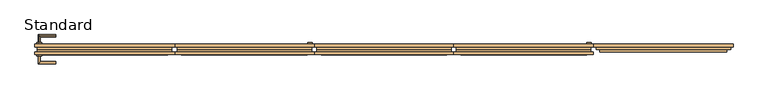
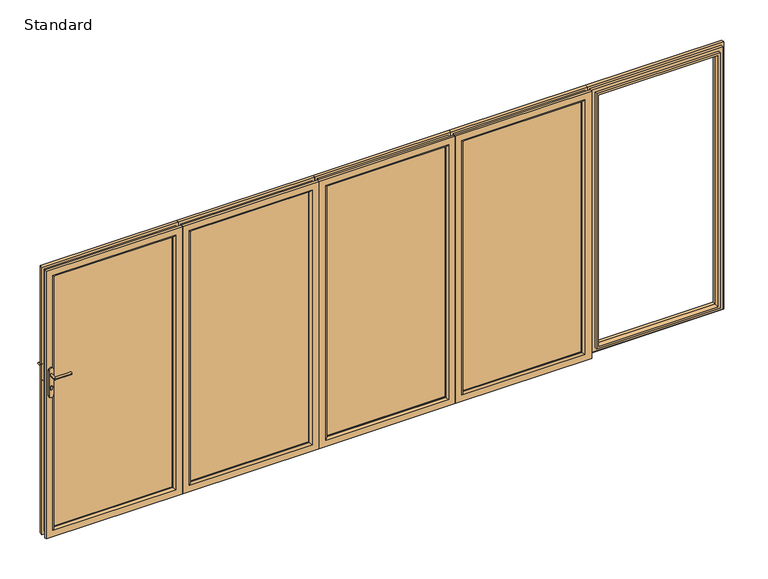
"""IFC4 building model written with IfcOpenShell, lengths in millimetres: door geometry, SMARTS_Visofold1000 : Standard."""

from ifc_helpers import new_model, si_unit, point, frame, frame_2d, origin, place, context, project, spatial, polyline, circle_curve, ellipse_curve, trimmed, segment, composite_curve, outline, extrude, faceted_brep, source, transform, mapped, element, save
from ifc_brep_helpers import plane_surface, cylinder_surface, advanced_brep


def standard_ed4c91d5(model_context):
    return source(origin(), model_context, "Body", "SolidModel", [
        advanced_brep(
        [(-2330.0, 75.0, 1232.5996413), (-2330.0, 75.0, 1215.5996413), (-2330.0, 130.0, 1215.5996413), (-2330.0, 130.0, 1232.5996413), (-2215.0, 130.0, 1232.5996413), (-2215.0, 130.0, 1215.5996413)],
        [
            (0, 1, circle_curve(frame((-2330.0, 75.0, 1224.0996413), z_axis=(0.0, -1.0, 0.0), x_axis=(0.0, 0.0, -1.0)), 8.5)),
            (1, 0, circle_curve(frame((-2330.0, 75.0, 1224.0996413), z_axis=(0.0, -1.0, 0.0), x_axis=(0.0, 0.0, -1.0)), 8.5)),
            (1, 2),
            (2, 3, ellipse_curve(frame((-2330.0, 130.0, 1224.0996413), z_axis=(-0.7071067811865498, -0.7071067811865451, 0.0), x_axis=(0.707106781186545, -0.70710678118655, 0.0)), 12.0208153, 8.5)),
            (3, 0),
            (3, 2, ellipse_curve(frame((-2330.0, 130.0, 1224.0996413), z_axis=(-0.7071067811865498, -0.7071067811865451, 0.0), x_axis=(0.707106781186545, -0.70710678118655, 0.0)), 12.0208153, 8.5)),
            (4, 5, circle_curve(frame((-2215.0, 130.0, 1224.0996413), z_axis=(1.0, 0.0, 0.0), x_axis=(0.0, 0.0, -1.0)), 8.5)),
            (5, 4, circle_curve(frame((-2215.0, 130.0, 1224.0996413), z_axis=(1.0, 0.0, 0.0), x_axis=(0.0, 0.0, -1.0)), 8.5)),
            (2, 5),
            (4, 3),
        ],
        [
            plane_surface(frame((-2330.0, 75.0, 1224.0996413), z_axis=(0.0, -1.0, 0.0), x_axis=(0.0, 0.0, -1.0))),
            cylinder_surface(frame((-2330.0, 75.0, 1224.0996413), z_axis=(0.0, -1.0, 0.0), x_axis=(0.0, 0.0, -1.0)), 8.5),
            plane_surface(frame((-2215.0, 130.0, 1224.0996413), z_axis=(1.0, 0.0, 0.0), x_axis=(0.0, 0.0, -1.0))),
            cylinder_surface(frame((-2330.0, 130.0, 1224.0996413), z_axis=(-1.0, 0.0, 0.0), x_axis=(0.0, 0.0, -1.0)), 8.5),
        ],
        [
            (0, [[1, 2]]),
            (1, [[-2, 3, 4, 5]]),
            (1, [[-1, -5, 6, -3]]),
            (2, [[7, 8]]),
            (3, [[-4, 9, -7, 10]]),
            (3, [[-6, -10, -8, -9]]),
        ],
    ),
        extrude(outline(composite_curve([segment(trimmed(circle_curve(frame_2d((1258.0996413, -2330.0)), 16.0), [point((1258.0996413, -2314.0))], [point((1258.0996413, -2346.0))], False, "CARTESIAN"), True, "CONTINUOUS"), segment(polyline([(1258.0996413, -2346.0), (1070.0996413, -2346.0)]), True, "CONTINUOUS"), segment(trimmed(circle_curve(frame_2d((1070.0996413, -2330.0)), 16.0), [point((1070.0996413, -2346.0))], [point((1070.0996413, -2314.0))], False, "CARTESIAN"), True, "CONTINUOUS"), segment(polyline([(1070.0996413, -2314.0), (1258.0996413, -2314.0)]), True, "CONTINUOUS")], self_intersect=False)), frame((0.0, 75.0, 0.0), z_axis=(0.0, 1.0, 0.0), x_axis=(0.0, 0.0, 1.0)), (0.0, 0.0, 1.0), 10.0),
        advanced_brep(
        [(-2321.5, 0.0, 1224.0996413), (-2338.5, 0.0, 1224.0996413), (-2321.5, -46.5, 1224.0996413), (-2338.5, -63.5, 1224.0996413), (-2215.0, -46.5, 1224.0996413), (-2215.0, -63.5, 1224.0996413)],
        [
            (0, 1, circle_curve(frame((-2330.0, 0.0, 1224.0996413), z_axis=(0.0, 1.0, 0.0), x_axis=(-1.0, 0.0, 0.0)), 8.5)),
            (1, 0, circle_curve(frame((-2330.0, 0.0, 1224.0996413), z_axis=(0.0, 1.0, 0.0), x_axis=(-1.0, 0.0, 0.0)), 8.5)),
            (0, 2),
            (2, 3, ellipse_curve(frame((-2330.0, -55.0, 1224.0996413), z_axis=(-0.7071067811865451, 0.7071067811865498, 0.0), x_axis=(0.7071067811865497, 0.7071067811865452, 0.0)), 12.0208153, 8.5)),
            (3, 1),
            (3, 2, ellipse_curve(frame((-2330.0, -55.0, 1224.0996413), z_axis=(-0.7071067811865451, 0.7071067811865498, 0.0), x_axis=(0.7071067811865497, 0.7071067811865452, 0.0)), 12.0208153, 8.5)),
            (4, 5, circle_curve(frame((-2215.0, -55.0, 1224.0996413), z_axis=(1.0, 0.0, 0.0), x_axis=(0.0, -1.0, 0.0)), 8.5)),
            (5, 4, circle_curve(frame((-2215.0, -55.0, 1224.0996413), z_axis=(1.0, 0.0, 0.0), x_axis=(0.0, -1.0, 0.0)), 8.5)),
            (2, 4),
            (5, 3),
        ],
        [
            plane_surface(frame((-2330.0, 0.0, 1224.0996413), z_axis=(0.0, 1.0, 0.0), x_axis=(0.0, 0.0, -1.0))),
            cylinder_surface(frame((-2330.0, 0.0, 1224.0996413), z_axis=(0.0, 1.0, 0.0), x_axis=(-1.0, 0.0, 0.0)), 8.5),
            plane_surface(frame((-2215.0, -55.0, 1224.0996413), z_axis=(1.0, 0.0, 0.0), x_axis=(0.0, 0.0, -1.0))),
            cylinder_surface(frame((-2330.0, -55.0, 1224.0996413), z_axis=(-1.0, 0.0, 0.0), x_axis=(0.0, -1.0, 0.0)), 8.5),
        ],
        [
            (0, [[1, 2]]),
            (1, [[-1, 3, 4, 5]]),
            (1, [[-2, -5, 6, -3]]),
            (2, [[7, 8]]),
            (3, [[-4, 9, -8, 10]]),
            (3, [[-6, -10, -7, -9]]),
        ],
    ),
        extrude(outline(composite_curve([segment(trimmed(circle_curve(frame_2d((1258.0996413, -2330.0)), 16.0), [point((1258.0996413, -2314.0))], [point((1258.0996413, -2346.0))], False, "CARTESIAN"), True, "CONTINUOUS"), segment(polyline([(1258.0996413, -2346.0), (1070.0996413, -2346.0)]), True, "CONTINUOUS"), segment(trimmed(circle_curve(frame_2d((1070.0996413, -2330.0)), 16.0), [point((1070.0996413, -2346.0))], [point((1070.0996413, -2314.0))], False, "CARTESIAN"), True, "CONTINUOUS"), segment(polyline([(1070.0996413, -2314.0), (1258.0996413, -2314.0)]), True, "CONTINUOUS")], self_intersect=False)), frame((0.0, -10.0, 0.0), z_axis=(0.0, 1.0, 0.0), x_axis=(0.0, 0.0, 1.0)), (0.0, 0.0, 1.0), 10.0),
        extrude(outline(composite_curve([segment(trimmed(circle_curve(frame_2d((1132.0996413, -2329.9428094)), 8.5), [point((1125.1769586, -2325.0106229))], [point((1125.27562, -2335.0106229))], False, "CARTESIAN"), True, "CONTINUOUS"), segment(polyline([(1125.27562, -2335.0106229), (1117.5996413, -2335.0106229)]), True, "CONTINUOUS"), segment(trimmed(circle_curve(frame_2d((1117.5996413, -2330.0106229)), 5.0), [point((1117.5996413, -2335.0106229))], [point((1117.5996413, -2325.0106229))], False, "CARTESIAN"), True, "CONTINUOUS"), segment(polyline([(1117.5996413, -2325.0106229), (1125.1769586, -2325.0106229)]), True, "CONTINUOUS")], self_intersect=False)), frame((0.0, 85.0, 0.0), z_axis=(0.0, 1.0, 0.0), x_axis=(0.0, 0.0, 1.0)), (0.0, 0.0, 1.0), 2.0),
        extrude(outline(composite_curve([segment(trimmed(circle_curve(frame_2d((1132.0996413, -2329.9428094)), 8.5), [point((1125.1769586, -2325.0106229))], [point((1125.27562, -2335.0106229))], False, "CARTESIAN"), True, "CONTINUOUS"), segment(polyline([(1125.27562, -2335.0106229), (1117.5996413, -2335.0106229)]), True, "CONTINUOUS"), segment(trimmed(circle_curve(frame_2d((1117.5996413, -2330.0106229)), 5.0), [point((1117.5996413, -2335.0106229))], [point((1117.5996413, -2325.0106229))], False, "CARTESIAN"), True, "CONTINUOUS"), segment(polyline([(1117.5996413, -2325.0106229), (1125.1769586, -2325.0106229)]), True, "CONTINUOUS")], self_intersect=False)), frame((0.0, -12.0, 0.0), z_axis=(0.0, 1.0, 0.0), x_axis=(0.0, 0.0, 1.0)), (0.0, 0.0, 1.0), 2.0),
        extrude(outline(polyline([(45.0, -2315.0), (45.0, -1441.0), (1955.0, -1441.0), (1955.0, -2315.0), (45.0, -2315.0)]), holes=[polyline([(1939.5, -2299.5), (1939.5, -1456.5), (60.5, -1456.5), (60.5, -2299.5), (1939.5, -2299.5)])]), frame((0.0, 17.4, 0.0), z_axis=(0.0, 1.0, 0.0), x_axis=(0.0, 0.0, 1.0)), (0.0, 0.0, 1.0), 35.0),
        faceted_brep([(-2360.0, 74.4, 0.0), (-2360.0, 52.4, 0.0), (-2360.0, 52.4, 2000.0), (-2360.0, 74.4, 2000.0), (-2299.5, 52.4, 60.5), (-2299.5, 74.4, 60.5), (-2299.5, 74.4, 1939.5), (-2299.5, 52.4, 1939.5), (-1396.0, 52.4, 2000.0), (-1396.0, 74.4, 2000.0), (-1456.5, 74.4, 1939.5), (-1456.5, 52.4, 1939.5), (-1396.0, 52.4, 0.0), (-1396.0, 74.4, 0.0), (-1456.5, 74.4, 60.5), (-1456.5, 52.4, 60.5), (-2342.1308519, 34.8, 17.8691481), (-1413.8691481, 34.8, 17.8691481), (-1413.8691481, 34.8, 1982.1308519), (-2342.1308519, 34.8, 1982.1308519), (-2315.0, 34.8, 1955.0), (-1441.0, 34.8, 1955.0), (-1441.0, 34.8, 45.0), (-2315.0, 34.8, 45.0), (-2342.1308519, 52.4, 17.8691481), (-2342.1308519, 52.4, 1982.1308519), (-2315.0, 52.4, 45.0), (-2315.0, 52.4, 1955.0), (-1413.8691481, 52.4, 1982.1308519), (-1441.0, 52.4, 1955.0), (-1413.8691481, 52.4, 17.8691481), (-1441.0, 52.4, 45.0)], [[[0, 1, 2, 3]], [[4, 5, 6, 7]], [[3, 2, 8, 9]], [[7, 6, 10, 11]], [[9, 8, 12, 13]], [[11, 10, 14, 15]], [[13, 12, 1, 0]], [[3, 9, 13, 0], [5, 14, 10, 6]], [[15, 14, 5, 4]], [[16, 17, 18, 19], [20, 21, 22, 23]], [[24, 16, 19, 25]], [[23, 26, 27, 20]], [[25, 19, 18, 28]], [[20, 27, 29, 21]], [[28, 18, 17, 30]], [[21, 29, 31, 22]], [[30, 17, 16, 24]], [[1, 12, 8, 2], [25, 28, 30, 24]], [[26, 31, 29, 27], [7, 11, 15, 4]], [[22, 31, 26, 23]]]),
        advanced_brep(
        [(-2299.5, 13.3, 60.5), (-2299.5, 17.4, 60.5), (-2299.5, 17.4, 1939.5), (-2299.5, 13.3, 1939.5), (-2360.0, 17.4, 0.0), (-2360.0, 0.0, 0.0), (-2360.0, 0.0, 2000.0), (-2360.0, 17.4, 2000.0), (-1456.5, 17.4, 1939.5), (-1456.5, 13.3, 1939.5), (-1396.0, 0.0, 2000.0), (-1396.0, 17.4, 2000.0), (-1456.5, 17.4, 60.5), (-1456.5, 13.3, 60.5), (-1396.0, 0.0, 0.0), (-1396.0, 17.4, 0.0), (-2312.8, 0.0, 1952.8), (-1443.2, 0.0, 1952.8), (-1443.2, 0.0, 47.2), (-2312.8, 0.0, 47.2), (-2342.1308519, 34.8, 17.8691481), (-2342.1308519, 17.4, 17.8691481), (-2342.1308519, 17.4, 1982.1308519), (-2342.1308519, 34.8, 1982.1308519), (-1413.8691481, 17.4, 1982.1308519), (-1413.8691481, 34.8, 1982.1308519), (-1413.8691481, 17.4, 17.8691481), (-1413.8691481, 34.8, 17.8691481), (-2315.0, 17.4, 45.0), (-2315.0, 34.8, 45.0), (-2315.0, 34.8, 1955.0), (-2315.0, 17.4, 1955.0), (-1441.0, 34.8, 1955.0), (-1441.0, 17.4, 1955.0), (-1441.0, 34.8, 45.0), (-1441.0, 17.4, 45.0)],
        [
            (0, 1),
            (1, 2),
            (2, 3),
            (3, 0),
            (4, 5),
            (5, 6),
            (6, 7),
            (7, 4),
            (2, 8),
            (8, 9),
            (9, 3),
            (6, 10),
            (10, 11),
            (11, 7),
            (8, 12),
            (12, 13),
            (13, 9),
            (10, 14),
            (14, 15),
            (15, 11),
            (12, 1),
            (0, 13),
            (5, 14),
            (16, 17),
            (17, 18),
            (18, 19),
            (19, 16),
            (4, 15),
            (19, 0, ellipse_curve(frame((-2312.8, 13.3, 47.2), z_axis=(-0.7071067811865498, 0.0, 0.7071067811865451), x_axis=(-0.7071067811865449, 0.0, -0.70710678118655)), 18.8090404, 13.3)),
            (3, 16, ellipse_curve(frame((-2312.8, 13.3, 1952.8), z_axis=(-0.7071067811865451, 0.0, -0.70710678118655), x_axis=(0.7071067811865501, 0.0, -0.7071067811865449)), 18.8090404, 13.3)),
            (9, 17, ellipse_curve(frame((-1443.2, 13.3, 1952.8), z_axis=(-0.7071067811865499, 0.0, 0.707106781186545), x_axis=(-0.7071067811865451, 0.0, -0.7071067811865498)), 18.8090404, 13.3)),
            (13, 18, ellipse_curve(frame((-1443.2, 13.3, 47.2), z_axis=(0.7071067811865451, 0.0, 0.7071067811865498), x_axis=(-0.7071067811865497, 0.0, 0.7071067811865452)), 18.8090404, 13.3)),
            (20, 21),
            (21, 22),
            (22, 23),
            (23, 20),
            (22, 24),
            (24, 25),
            (25, 23),
            (24, 26),
            (26, 27),
            (27, 25),
            (21, 26),
            (20, 27),
            (28, 29),
            (29, 30),
            (30, 31),
            (31, 28),
            (30, 32),
            (32, 33),
            (33, 31),
            (32, 34),
            (34, 35),
            (35, 33),
            (34, 29),
            (28, 35),
        ],
        [
            plane_surface(frame((-2299.5, 17.4, 60.5), z_axis=(1.0, 0.0, 0.0), x_axis=(0.0, 0.0, 1.0))),
            plane_surface(frame((-2360.0, 0.0, 0.0), z_axis=(-1.0, 0.0, 0.0), x_axis=(0.0, 0.0, 1.0))),
            plane_surface(frame((-2299.5, 17.4, 1939.5), z_axis=(0.0, 0.0, -1.0), x_axis=(1.0, 0.0, 0.0))),
            plane_surface(frame((-2360.0, 0.0, 2000.0), z_axis=(0.0, 0.0, 1.0), x_axis=(1.0, 0.0, 0.0))),
            plane_surface(frame((-1456.5, 17.4, 1939.5), z_axis=(-1.0, 0.0, 0.0), x_axis=(0.0, 0.0, -1.0))),
            plane_surface(frame((-1396.0, 0.0, 2000.0), z_axis=(1.0, 0.0, 0.0), x_axis=(0.0, 0.0, -1.0))),
            plane_surface(frame((-1456.5, 17.4, 60.5), z_axis=(0.0, 0.0, 1.0), x_axis=(-1.0, 0.0, 0.0))),
            plane_surface(frame((-1443.2, 0.0, 47.2), z_axis=(0.0, -1.0, 0.0), x_axis=(-1.0, 0.0, 0.0))),
            plane_surface(frame((-1396.0, 0.0, 0.0), z_axis=(0.0, 0.0, -1.0), x_axis=(-1.0, 0.0, 0.0))),
            cylinder_surface(frame((-2312.8, 13.3, 0.0), z_axis=(0.0, 0.0, -1.0), x_axis=(0.0, 1.0, 0.0)), 13.3),
            cylinder_surface(frame((-2360.0, 13.3, 1952.8), z_axis=(-1.0, 0.0, 0.0), x_axis=(0.0, 1.0, 0.0)), 13.3),
            cylinder_surface(frame((-1443.2, 13.3, 2000.0), z_axis=(0.0, 0.0, 1.0), x_axis=(0.0, 1.0, 0.0)), 13.3),
            cylinder_surface(frame((-1396.0, 13.3, 47.2), z_axis=(1.0, 0.0, 0.0), x_axis=(0.0, 1.0, 0.0)), 13.3),
            plane_surface(frame((-2342.1308519, 17.4, 17.8691481), z_axis=(-1.0, 0.0, 0.0), x_axis=(0.0, 0.0, 1.0))),
            plane_surface(frame((-2342.1308519, 17.4, 1982.1308519), z_axis=(0.0, 0.0, 1.0), x_axis=(1.0, 0.0, 0.0))),
            plane_surface(frame((-1413.8691481, 17.4, 1982.1308519), z_axis=(1.0, 0.0, 0.0), x_axis=(0.0, 0.0, -1.0))),
            plane_surface(frame((-1396.0, 17.4, 0.0), z_axis=(0.0, 1.0, 0.0), x_axis=(-1.0, 0.0, 0.0))),
            plane_surface(frame((-1413.8691481, 17.4, 17.8691481), z_axis=(0.0, 0.0, -1.0), x_axis=(-1.0, 0.0, 0.0))),
            plane_surface(frame((-2315.0, 34.8, 45.0), z_axis=(1.0, 0.0, 0.0), x_axis=(0.0, 0.0, 1.0))),
            plane_surface(frame((-2315.0, 34.8, 1955.0), z_axis=(0.0, 0.0, -1.0), x_axis=(1.0, 0.0, 0.0))),
            plane_surface(frame((-1441.0, 34.8, 1955.0), z_axis=(-1.0, 0.0, 0.0), x_axis=(0.0, 0.0, -1.0))),
            plane_surface(frame((-1441.0, 34.8, 45.0), z_axis=(0.0, 0.0, 1.0), x_axis=(-1.0, 0.0, 0.0))),
            plane_surface(frame((-1441.0, 17.4, 45.0), z_axis=(0.0, 1.0, 0.0), x_axis=(-1.0, 0.0, 0.0))),
            plane_surface(frame((-1413.8691481, 34.8, 17.8691481), z_axis=(0.0, 1.0, 0.0), x_axis=(-1.0, 0.0, 0.0))),
        ],
        [
            (0, [[1, 2, 3, 4]]),
            (1, [[5, 6, 7, 8]]),
            (2, [[-3, 9, 10, 11]]),
            (3, [[-7, 12, 13, 14]]),
            (4, [[-10, 15, 16, 17]]),
            (5, [[-13, 18, 19, 20]]),
            (6, [[-16, 21, -1, 22]]),
            (7, [[23, -18, -12, -6], [24, 25, 26, 27]]),
            (8, [[-19, -23, -5, 28]]),
            (9, [[29, -4, 30, -27]]),
            (10, [[-30, -11, 31, -24]]),
            (11, [[-31, -17, 32, -25]]),
            (12, [[-32, -22, -29, -26]]),
            (13, [[33, 34, 35, 36]]),
            (14, [[-35, 37, 38, 39]]),
            (15, [[-38, 40, 41, 42]]),
            (16, [[-14, -20, -28, -8], [43, -40, -37, -34]]),
            (17, [[-41, -43, -33, 44]]),
            (18, [[45, 46, 47, 48]]),
            (19, [[-47, 49, 50, 51]]),
            (20, [[-50, 52, 53, 54]]),
            (21, [[-53, 55, -45, 56]]),
            (22, [[-51, -54, -56, -48], [-21, -15, -9, -2]]),
            (23, [[-39, -42, -44, -36], [-55, -52, -49, -46]]),
        ],
    ),
        extrude(outline(polyline([(-2299.5, 50.1484783), (-1456.5, 50.1484783), (-1456.5, 21.4), (-2299.5, 21.4), (-2299.5, 50.1484783)])), frame((0.0, 0.0, 60.5), z_axis=(0.0, 0.0, 1.0), x_axis=(1.0, 0.0, 0.0)), (0.0, 0.0, 1.0), 1879.0),
        extrude(outline(composite_curve([segment(polyline([(1228.0996413, -478.0), (1040.0996413, -478.0)]), True, "CONTINUOUS"), segment(trimmed(circle_curve(frame_2d((1040.0996413, -462.0)), 16.0), [point((1040.0996413, -478.0))], [point((1040.0996413, -446.0))], False, "CARTESIAN"), True, "CONTINUOUS"), segment(polyline([(1040.0996413, -446.0), (1228.0996413, -446.0)]), True, "CONTINUOUS"), segment(trimmed(circle_curve(frame_2d((1228.0996413, -462.0)), 16.0), [point((1228.0996413, -446.0))], [point((1228.0996413, -478.0))], False, "CARTESIAN"), True, "CONTINUOUS")], self_intersect=False)), frame((0.0, 75.0, 0.0), z_axis=(0.0, 1.0, 0.0), x_axis=(0.0, 0.0, 1.0)), (0.0, 0.0, 1.0), 10.0),
        extrude(outline(polyline([(45.0, -477.0), (1955.0, -477.0), (1955.0, -1351.0), (45.0, -1351.0), (45.0, -477.0)]), holes=[polyline([(1939.5, -492.5), (60.5, -492.5), (60.5, -1335.5), (1939.5, -1335.5), (1939.5, -492.5)])]), frame((0.0, 17.4, 0.0), z_axis=(0.0, 1.0, 0.0), x_axis=(0.0, 0.0, 1.0)), (0.0, 0.0, 1.0), 35.0),
        faceted_brep([(-432.0, 74.4, 0.0), (-432.0, 74.4, 2000.0), (-432.0, 52.4, 2000.0), (-432.0, 52.4, 0.0), (-492.5, 52.4, 60.5), (-492.5, 52.4, 1939.5), (-492.5, 74.4, 1939.5), (-492.5, 74.4, 60.5), (-1396.0, 74.4, 2000.0), (-1396.0, 52.4, 2000.0), (-1335.5, 52.4, 1939.5), (-1335.5, 74.4, 1939.5), (-1396.0, 74.4, 0.0), (-1396.0, 52.4, 0.0), (-1335.5, 52.4, 60.5), (-1335.5, 74.4, 60.5), (-449.8691481, 34.8, 17.8691481), (-449.8691481, 34.8, 1982.1308519), (-1378.1308519, 34.8, 1982.1308519), (-1378.1308519, 34.8, 17.8691481), (-477.0, 34.8, 1955.0), (-477.0, 34.8, 45.0), (-1351.0, 34.8, 45.0), (-1351.0, 34.8, 1955.0), (-449.8691481, 52.4, 17.8691481), (-449.8691481, 52.4, 1982.1308519), (-477.0, 52.4, 1955.0), (-477.0, 52.4, 45.0), (-1378.1308519, 52.4, 1982.1308519), (-1351.0, 52.4, 1955.0), (-1378.1308519, 52.4, 17.8691481), (-1351.0, 52.4, 45.0)], [[[0, 1, 2, 3]], [[4, 5, 6, 7]], [[1, 8, 9, 2]], [[5, 10, 11, 6]], [[8, 12, 13, 9]], [[10, 14, 15, 11]], [[12, 0, 3, 13]], [[1, 0, 12, 8], [7, 6, 11, 15]], [[14, 4, 7, 15]], [[16, 17, 18, 19], [20, 21, 22, 23]], [[24, 25, 17, 16]], [[21, 20, 26, 27]], [[25, 28, 18, 17]], [[20, 23, 29, 26]], [[28, 30, 19, 18]], [[23, 22, 31, 29]], [[30, 24, 16, 19]], [[3, 2, 9, 13], [25, 24, 30, 28]], [[27, 26, 29, 31], [5, 4, 14, 10]], [[22, 21, 27, 31]]]),
        advanced_brep(
        [(-492.5, 13.3, 60.5), (-492.5, 13.3, 1939.5), (-492.5, 17.4, 1939.5), (-492.5, 17.4, 60.5), (-432.0, 17.4, 0.0), (-432.0, 17.4, 2000.0), (-432.0, 0.0, 2000.0), (-432.0, 0.0, 0.0), (-1335.5, 13.3, 1939.5), (-1335.5, 17.4, 1939.5), (-1396.0, 17.4, 2000.0), (-1396.0, 0.0, 2000.0), (-1335.5, 13.3, 60.5), (-1335.5, 17.4, 60.5), (-1396.0, 17.4, 0.0), (-1396.0, 0.0, 0.0), (-479.2, 0.0, 1952.8), (-479.2, 0.0, 47.2), (-1348.8, 0.0, 47.2), (-1348.8, 0.0, 1952.8), (-449.8691481, 34.8, 17.8691481), (-449.8691481, 34.8, 1982.1308519), (-449.8691481, 17.4, 1982.1308519), (-449.8691481, 17.4, 17.8691481), (-1378.1308519, 34.8, 1982.1308519), (-1378.1308519, 17.4, 1982.1308519), (-1378.1308519, 34.8, 17.8691481), (-1378.1308519, 17.4, 17.8691481), (-477.0, 17.4, 45.0), (-477.0, 17.4, 1955.0), (-477.0, 34.8, 1955.0), (-477.0, 34.8, 45.0), (-1351.0, 17.4, 1955.0), (-1351.0, 34.8, 1955.0), (-1351.0, 17.4, 45.0), (-1351.0, 34.8, 45.0)],
        [
            (0, 1),
            (1, 2),
            (2, 3),
            (3, 0),
            (4, 5),
            (5, 6),
            (6, 7),
            (7, 4),
            (1, 8),
            (8, 9),
            (9, 2),
            (5, 10),
            (10, 11),
            (11, 6),
            (8, 12),
            (12, 13),
            (13, 9),
            (10, 14),
            (14, 15),
            (15, 11),
            (12, 0),
            (3, 13),
            (15, 7),
            (16, 17),
            (17, 18),
            (18, 19),
            (19, 16),
            (14, 4),
            (16, 1, ellipse_curve(frame((-479.2, 13.3, 1952.8), z_axis=(0.7071067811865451, 0.0, -0.70710678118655), x_axis=(-0.7071067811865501, 0.0, -0.7071067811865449)), 18.8090404, 13.3)),
            (0, 17, ellipse_curve(frame((-479.2, 13.3, 47.2), z_axis=(0.7071067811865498, 0.0, 0.7071067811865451), x_axis=(0.7071067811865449, 0.0, -0.70710678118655)), 18.8090404, 13.3)),
            (19, 8, ellipse_curve(frame((-1348.8, 13.3, 1952.8), z_axis=(0.7071067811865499, 0.0, 0.707106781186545), x_axis=(0.7071067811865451, 0.0, -0.7071067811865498)), 18.8090404, 13.3)),
            (18, 12, ellipse_curve(frame((-1348.8, 13.3, 47.2), z_axis=(-0.7071067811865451, 0.0, 0.7071067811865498), x_axis=(0.7071067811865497, 0.0, 0.7071067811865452)), 18.8090404, 13.3)),
            (20, 21),
            (21, 22),
            (22, 23),
            (23, 20),
            (21, 24),
            (24, 25),
            (25, 22),
            (24, 26),
            (26, 27),
            (27, 25),
            (27, 23),
            (26, 20),
            (28, 29),
            (29, 30),
            (30, 31),
            (31, 28),
            (29, 32),
            (32, 33),
            (33, 30),
            (32, 34),
            (34, 35),
            (35, 33),
            (34, 28),
            (31, 35),
        ],
        [
            plane_surface(frame((-492.5, 17.4, 60.5), z_axis=(-1.0, 0.0, 0.0), x_axis=(0.0, 0.0, 1.0))),
            plane_surface(frame((-432.0, 0.0, 0.0), z_axis=(1.0, 0.0, 0.0), x_axis=(0.0, 0.0, 1.0))),
            plane_surface(frame((-492.5, 17.4, 1939.5), z_axis=(0.0, 0.0, -1.0), x_axis=(-1.0, 0.0, 0.0))),
            plane_surface(frame((-432.0, 0.0, 2000.0), z_axis=(0.0, 0.0, 1.0), x_axis=(-1.0, 0.0, 0.0))),
            plane_surface(frame((-1335.5, 17.4, 1939.5), z_axis=(1.0, 0.0, 0.0), x_axis=(0.0, 0.0, -1.0))),
            plane_surface(frame((-1396.0, 0.0, 2000.0), z_axis=(-1.0, 0.0, 0.0), x_axis=(0.0, 0.0, -1.0))),
            plane_surface(frame((-1335.5, 17.4, 60.5), z_axis=(0.0, 0.0, 1.0), x_axis=(1.0, 0.0, 0.0))),
            plane_surface(frame((-1348.8, 0.0, 47.2), z_axis=(0.0, -1.0, 0.0), x_axis=(1.0, 0.0, 0.0))),
            plane_surface(frame((-1396.0, 0.0, 0.0), z_axis=(0.0, 0.0, -1.0), x_axis=(1.0, 0.0, 0.0))),
            cylinder_surface(frame((-479.2, 13.3, 0.0), z_axis=(0.0, 0.0, -1.0), x_axis=(0.0, 1.0, 0.0)), 13.3),
            cylinder_surface(frame((-432.0, 13.3, 1952.8), z_axis=(1.0, 0.0, 0.0), x_axis=(0.0, 1.0, 0.0)), 13.3),
            cylinder_surface(frame((-1348.8, 13.3, 2000.0), z_axis=(0.0, 0.0, 1.0), x_axis=(0.0, 1.0, 0.0)), 13.3),
            cylinder_surface(frame((-1396.0, 13.3, 47.2), z_axis=(-1.0, 0.0, 0.0), x_axis=(0.0, 1.0, 0.0)), 13.3),
            plane_surface(frame((-449.8691481, 17.4, 17.8691481), z_axis=(1.0, 0.0, 0.0), x_axis=(0.0, 0.0, 1.0))),
            plane_surface(frame((-449.8691481, 17.4, 1982.1308519), z_axis=(0.0, 0.0, 1.0), x_axis=(-1.0, 0.0, 0.0))),
            plane_surface(frame((-1378.1308519, 17.4, 1982.1308519), z_axis=(-1.0, 0.0, 0.0), x_axis=(0.0, 0.0, -1.0))),
            plane_surface(frame((-1396.0, 17.4, 0.0), z_axis=(0.0, 1.0, 0.0), x_axis=(1.0, 0.0, 0.0))),
            plane_surface(frame((-1378.1308519, 17.4, 17.8691481), z_axis=(0.0, 0.0, -1.0), x_axis=(1.0, 0.0, 0.0))),
            plane_surface(frame((-477.0, 34.8, 45.0), z_axis=(-1.0, 0.0, 0.0), x_axis=(0.0, 0.0, 1.0))),
            plane_surface(frame((-477.0, 34.8, 1955.0), z_axis=(0.0, 0.0, -1.0), x_axis=(-1.0, 0.0, 0.0))),
            plane_surface(frame((-1351.0, 34.8, 1955.0), z_axis=(1.0, 0.0, 0.0), x_axis=(0.0, 0.0, -1.0))),
            plane_surface(frame((-1351.0, 34.8, 45.0), z_axis=(0.0, 0.0, 1.0), x_axis=(1.0, 0.0, 0.0))),
            plane_surface(frame((-1351.0, 17.4, 45.0), z_axis=(0.0, 1.0, 0.0), x_axis=(1.0, 0.0, 0.0))),
            plane_surface(frame((-1378.1308519, 34.8, 17.8691481), z_axis=(0.0, 1.0, 0.0), x_axis=(1.0, 0.0, 0.0))),
        ],
        [
            (0, [[1, 2, 3, 4]]),
            (1, [[5, 6, 7, 8]]),
            (2, [[9, 10, 11, -2]]),
            (3, [[12, 13, 14, -6]]),
            (4, [[15, 16, 17, -10]]),
            (5, [[18, 19, 20, -13]]),
            (6, [[21, -4, 22, -16]]),
            (7, [[-7, -14, -20, 23], [24, 25, 26, 27]]),
            (8, [[28, -8, -23, -19]]),
            (9, [[-24, 29, -1, 30]]),
            (10, [[-27, 31, -9, -29]]),
            (11, [[-26, 32, -15, -31]]),
            (12, [[-25, -30, -21, -32]]),
            (13, [[33, 34, 35, 36]]),
            (14, [[37, 38, 39, -34]]),
            (15, [[40, 41, 42, -38]]),
            (16, [[-5, -28, -18, -12], [-35, -39, -42, 43]]),
            (17, [[44, -36, -43, -41]]),
            (18, [[45, 46, 47, 48]]),
            (19, [[49, 50, 51, -46]]),
            (20, [[52, 53, 54, -50]]),
            (21, [[55, -48, 56, -53]]),
            (22, [[-45, -55, -52, -49], [-3, -11, -17, -22]]),
            (23, [[-33, -44, -40, -37], [-47, -51, -54, -56]]),
        ],
    ),
        extrude(outline(polyline([(-492.5, 50.1484783), (-492.5, 21.4), (-1335.5, 21.4), (-1335.5, 50.1484783), (-492.5, 50.1484783)])), frame((0.0, 0.0, 60.5), z_axis=(0.0, 0.0, 1.0), x_axis=(1.0, 0.0, 0.0)), (0.0, 0.0, 1.0), 1879.0),
        extrude(outline(composite_curve([segment(polyline([(1228.0996413, 1450.0), (1040.0996413, 1450.0)]), True, "CONTINUOUS"), segment(trimmed(circle_curve(frame_2d((1040.0996413, 1466.0)), 16.0), [point((1040.0996413, 1450.0))], [point((1040.0996413, 1482.0))], False, "CARTESIAN"), True, "CONTINUOUS"), segment(polyline([(1040.0996413, 1482.0), (1228.0996413, 1482.0)]), True, "CONTINUOUS"), segment(trimmed(circle_curve(frame_2d((1228.0996413, 1466.0)), 16.0), [point((1228.0996413, 1482.0))], [point((1228.0996413, 1450.0))], False, "CARTESIAN"), True, "CONTINUOUS")], self_intersect=False)), frame((0.0, 75.0, 0.0), z_axis=(0.0, 1.0, 0.0), x_axis=(0.0, 0.0, 1.0)), (0.0, 0.0, 1.0), 10.0),
        extrude(outline(polyline([(45.0, 1451.0), (1955.0, 1451.0), (1955.0, 577.0), (45.0, 577.0), (45.0, 1451.0)]), holes=[polyline([(1939.5, 1435.5), (60.5, 1435.5), (60.5, 592.5), (1939.5, 592.5), (1939.5, 1435.5)])]), frame((0.0, 17.4, 0.0), z_axis=(0.0, 1.0, 0.0), x_axis=(0.0, 0.0, 1.0)), (0.0, 0.0, 1.0), 35.0),
        faceted_brep([(1496.0, 74.4, 0.0), (1496.0, 74.4, 2000.0), (1496.0, 52.4, 2000.0), (1496.0, 52.4, 0.0), (1435.5, 52.4, 60.5), (1435.5, 52.4, 1939.5), (1435.5, 74.4, 1939.5), (1435.5, 74.4, 60.5), (532.0, 74.4, 2000.0), (532.0, 52.4, 2000.0), (592.5, 52.4, 1939.5), (592.5, 74.4, 1939.5), (532.0, 74.4, 0.0), (532.0, 52.4, 0.0), (592.5, 52.4, 60.5), (592.5, 74.4, 60.5), (1478.1308519, 34.8, 17.8691481), (1478.1308519, 34.8, 1982.1308519), (549.8691481, 34.8, 1982.1308519), (549.8691481, 34.8, 17.8691481), (1451.0, 34.8, 1955.0), (1451.0, 34.8, 45.0), (577.0, 34.8, 45.0), (577.0, 34.8, 1955.0), (1478.1308519, 52.4, 17.8691481), (1478.1308519, 52.4, 1982.1308519), (1451.0, 52.4, 1955.0), (1451.0, 52.4, 45.0), (549.8691481, 52.4, 1982.1308519), (577.0, 52.4, 1955.0), (549.8691481, 52.4, 17.8691481), (577.0, 52.4, 45.0)], [[[0, 1, 2, 3]], [[4, 5, 6, 7]], [[1, 8, 9, 2]], [[5, 10, 11, 6]], [[8, 12, 13, 9]], [[10, 14, 15, 11]], [[12, 0, 3, 13]], [[1, 0, 12, 8], [7, 6, 11, 15]], [[14, 4, 7, 15]], [[16, 17, 18, 19], [20, 21, 22, 23]], [[24, 25, 17, 16]], [[21, 20, 26, 27]], [[25, 28, 18, 17]], [[20, 23, 29, 26]], [[28, 30, 19, 18]], [[23, 22, 31, 29]], [[30, 24, 16, 19]], [[3, 2, 9, 13], [25, 24, 30, 28]], [[27, 26, 29, 31], [5, 4, 14, 10]], [[22, 21, 27, 31]]]),
        advanced_brep(
        [(1435.5, 13.3, 60.5), (1435.5, 13.3, 1939.5), (1435.5, 17.4, 1939.5), (1435.5, 17.4, 60.5), (1496.0, 17.4, 0.0), (1496.0, 17.4, 2000.0), (1496.0, 0.0, 2000.0), (1496.0, 0.0, 0.0), (592.5, 13.3, 1939.5), (592.5, 17.4, 1939.5), (532.0, 17.4, 2000.0), (532.0, 0.0, 2000.0), (592.5, 13.3, 60.5), (592.5, 17.4, 60.5), (532.0, 17.4, 0.0), (532.0, 0.0, 0.0), (1448.8, 0.0, 1952.8), (1448.8, 0.0, 47.2), (579.2, 0.0, 47.2), (579.2, 0.0, 1952.8), (1478.1308519, 34.8, 17.8691481), (1478.1308519, 34.8, 1982.1308519), (1478.1308519, 17.4, 1982.1308519), (1478.1308519, 17.4, 17.8691481), (549.8691481, 34.8, 1982.1308519), (549.8691481, 17.4, 1982.1308519), (549.8691481, 34.8, 17.8691481), (549.8691481, 17.4, 17.8691481), (1451.0, 17.4, 45.0), (1451.0, 17.4, 1955.0), (1451.0, 34.8, 1955.0), (1451.0, 34.8, 45.0), (577.0, 17.4, 1955.0), (577.0, 34.8, 1955.0), (577.0, 17.4, 45.0), (577.0, 34.8, 45.0)],
        [
            (0, 1),
            (1, 2),
            (2, 3),
            (3, 0),
            (4, 5),
            (5, 6),
            (6, 7),
            (7, 4),
            (1, 8),
            (8, 9),
            (9, 2),
            (5, 10),
            (10, 11),
            (11, 6),
            (8, 12),
            (12, 13),
            (13, 9),
            (10, 14),
            (14, 15),
            (15, 11),
            (12, 0),
            (3, 13),
            (15, 7),
            (16, 17),
            (17, 18),
            (18, 19),
            (19, 16),
            (14, 4),
            (16, 1, ellipse_curve(frame((1448.8, 13.3, 1952.8), z_axis=(0.7071067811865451, 0.0, -0.70710678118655), x_axis=(-0.7071067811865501, 0.0, -0.7071067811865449)), 18.8090404, 13.3)),
            (0, 17, ellipse_curve(frame((1448.8, 13.3, 47.2), z_axis=(0.7071067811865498, 0.0, 0.7071067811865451), x_axis=(0.7071067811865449, 0.0, -0.70710678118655)), 18.8090404, 13.3)),
            (19, 8, ellipse_curve(frame((579.2, 13.3, 1952.8), z_axis=(0.7071067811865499, 0.0, 0.707106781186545), x_axis=(0.7071067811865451, 0.0, -0.7071067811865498)), 18.8090404, 13.3)),
            (18, 12, ellipse_curve(frame((579.2, 13.3, 47.2), z_axis=(-0.7071067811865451, 0.0, 0.7071067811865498), x_axis=(0.7071067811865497, 0.0, 0.7071067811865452)), 18.8090404, 13.3)),
            (20, 21),
            (21, 22),
            (22, 23),
            (23, 20),
            (21, 24),
            (24, 25),
            (25, 22),
            (24, 26),
            (26, 27),
            (27, 25),
            (27, 23),
            (26, 20),
            (28, 29),
            (29, 30),
            (30, 31),
            (31, 28),
            (29, 32),
            (32, 33),
            (33, 30),
            (32, 34),
            (34, 35),
            (35, 33),
            (34, 28),
            (31, 35),
        ],
        [
            plane_surface(frame((1435.5, 17.4, 60.5), z_axis=(-1.0, 0.0, 0.0), x_axis=(0.0, 0.0, 1.0))),
            plane_surface(frame((1496.0, 0.0, 0.0), z_axis=(1.0, 0.0, 0.0), x_axis=(0.0, 0.0, 1.0))),
            plane_surface(frame((1435.5, 17.4, 1939.5), z_axis=(0.0, 0.0, -1.0), x_axis=(-1.0, 0.0, 0.0))),
            plane_surface(frame((1496.0, 0.0, 2000.0), z_axis=(0.0, 0.0, 1.0), x_axis=(-1.0, 0.0, 0.0))),
            plane_surface(frame((592.5, 17.4, 1939.5), z_axis=(1.0, 0.0, 0.0), x_axis=(0.0, 0.0, -1.0))),
            plane_surface(frame((532.0, 0.0, 2000.0), z_axis=(-1.0, 0.0, 0.0), x_axis=(0.0, 0.0, -1.0))),
            plane_surface(frame((592.5, 17.4, 60.5), z_axis=(0.0, 0.0, 1.0), x_axis=(1.0, 0.0, 0.0))),
            plane_surface(frame((579.2, 0.0, 47.2), z_axis=(0.0, -1.0, 0.0), x_axis=(1.0, 0.0, 0.0))),
            plane_surface(frame((532.0, 0.0, 0.0), z_axis=(0.0, 0.0, -1.0), x_axis=(1.0, 0.0, 0.0))),
            cylinder_surface(frame((1448.8, 13.3, 0.0), z_axis=(0.0, 0.0, -1.0), x_axis=(0.0, 1.0, 0.0)), 13.3),
            cylinder_surface(frame((1496.0, 13.3, 1952.8), z_axis=(1.0, 0.0, 0.0), x_axis=(0.0, 1.0, 0.0)), 13.3),
            cylinder_surface(frame((579.2, 13.3, 2000.0), z_axis=(0.0, 0.0, 1.0), x_axis=(0.0, 1.0, 0.0)), 13.3),
            cylinder_surface(frame((532.0, 13.3, 47.2), z_axis=(-1.0, 0.0, 0.0), x_axis=(0.0, 1.0, 0.0)), 13.3),
            plane_surface(frame((1478.1308519, 17.4, 17.8691481), z_axis=(1.0, 0.0, 0.0), x_axis=(0.0, 0.0, 1.0))),
            plane_surface(frame((1478.1308519, 17.4, 1982.1308519), z_axis=(0.0, 0.0, 1.0), x_axis=(-1.0, 0.0, 0.0))),
            plane_surface(frame((549.8691481, 17.4, 1982.1308519), z_axis=(-1.0, 0.0, 0.0), x_axis=(0.0, 0.0, -1.0))),
            plane_surface(frame((532.0, 17.4, 0.0), z_axis=(0.0, 1.0, 0.0), x_axis=(1.0, 0.0, 0.0))),
            plane_surface(frame((549.8691481, 17.4, 17.8691481), z_axis=(0.0, 0.0, -1.0), x_axis=(1.0, 0.0, 0.0))),
            plane_surface(frame((1451.0, 34.8, 45.0), z_axis=(-1.0, 0.0, 0.0), x_axis=(0.0, 0.0, 1.0))),
            plane_surface(frame((1451.0, 34.8, 1955.0), z_axis=(0.0, 0.0, -1.0), x_axis=(-1.0, 0.0, 0.0))),
            plane_surface(frame((577.0, 34.8, 1955.0), z_axis=(1.0, 0.0, 0.0), x_axis=(0.0, 0.0, -1.0))),
            plane_surface(frame((577.0, 34.8, 45.0), z_axis=(0.0, 0.0, 1.0), x_axis=(1.0, 0.0, 0.0))),
            plane_surface(frame((577.0, 17.4, 45.0), z_axis=(0.0, 1.0, 0.0), x_axis=(1.0, 0.0, 0.0))),
            plane_surface(frame((549.8691481, 34.8, 17.8691481), z_axis=(0.0, 1.0, 0.0), x_axis=(1.0, 0.0, 0.0))),
        ],
        [
            (0, [[1, 2, 3, 4]]),
            (1, [[5, 6, 7, 8]]),
            (2, [[9, 10, 11, -2]]),
            (3, [[12, 13, 14, -6]]),
            (4, [[15, 16, 17, -10]]),
            (5, [[18, 19, 20, -13]]),
            (6, [[21, -4, 22, -16]]),
            (7, [[-7, -14, -20, 23], [24, 25, 26, 27]]),
            (8, [[28, -8, -23, -19]]),
            (9, [[-24, 29, -1, 30]]),
            (10, [[-27, 31, -9, -29]]),
            (11, [[-26, 32, -15, -31]]),
            (12, [[-25, -30, -21, -32]]),
            (13, [[33, 34, 35, 36]]),
            (14, [[37, 38, 39, -34]]),
            (15, [[40, 41, 42, -38]]),
            (16, [[-5, -28, -18, -12], [-35, -39, -42, 43]]),
            (17, [[44, -36, -43, -41]]),
            (18, [[45, 46, 47, 48]]),
            (19, [[49, 50, 51, -46]]),
            (20, [[52, 53, 54, -50]]),
            (21, [[55, -48, 56, -53]]),
            (22, [[-45, -55, -52, -49], [-3, -11, -17, -22]]),
            (23, [[-33, -44, -40, -37], [-47, -51, -54, -56]]),
        ],
    ),
        extrude(outline(polyline([(1435.5, 50.1484783), (1435.5, 21.4), (592.5, 21.4), (592.5, 50.1484783), (1435.5, 50.1484783)])), frame((0.0, 0.0, 60.5), z_axis=(0.0, 0.0, 1.0), x_axis=(1.0, 0.0, 0.0)), (0.0, 0.0, 1.0), 1879.0),
        extrude(outline(polyline([(45.0, -387.0), (45.0, 487.0), (1955.0, 487.0), (1955.0, -387.0), (45.0, -387.0)]), holes=[polyline([(1939.5, -371.5), (1939.5, 471.5), (60.5, 471.5), (60.5, -371.5), (1939.5, -371.5)])]), frame((0.0, 17.4, 0.0), z_axis=(0.0, 1.0, 0.0), x_axis=(0.0, 0.0, 1.0)), (0.0, 0.0, 1.0), 35.0),
        faceted_brep([(-432.0, 74.4, 0.0), (-432.0, 52.4, 0.0), (-432.0, 52.4, 2000.0), (-432.0, 74.4, 2000.0), (-371.5, 52.4, 60.5), (-371.5, 74.4, 60.5), (-371.5, 74.4, 1939.5), (-371.5, 52.4, 1939.5), (532.0, 52.4, 2000.0), (532.0, 74.4, 2000.0), (471.5, 74.4, 1939.5), (471.5, 52.4, 1939.5), (532.0, 52.4, 0.0), (532.0, 74.4, 0.0), (471.5, 74.4, 60.5), (471.5, 52.4, 60.5), (-414.1308519, 34.8, 17.8691481), (514.1308519, 34.8, 17.8691481), (514.1308519, 34.8, 1982.1308519), (-414.1308519, 34.8, 1982.1308519), (-387.0, 34.8, 1955.0), (487.0, 34.8, 1955.0), (487.0, 34.8, 45.0), (-387.0, 34.8, 45.0), (-414.1308519, 52.4, 17.8691481), (-414.1308519, 52.4, 1982.1308519), (-387.0, 52.4, 45.0), (-387.0, 52.4, 1955.0), (514.1308519, 52.4, 1982.1308519), (487.0, 52.4, 1955.0), (514.1308519, 52.4, 17.8691481), (487.0, 52.4, 45.0)], [[[0, 1, 2, 3]], [[4, 5, 6, 7]], [[3, 2, 8, 9]], [[7, 6, 10, 11]], [[9, 8, 12, 13]], [[11, 10, 14, 15]], [[13, 12, 1, 0]], [[3, 9, 13, 0], [5, 14, 10, 6]], [[15, 14, 5, 4]], [[16, 17, 18, 19], [20, 21, 22, 23]], [[24, 16, 19, 25]], [[23, 26, 27, 20]], [[25, 19, 18, 28]], [[20, 27, 29, 21]], [[28, 18, 17, 30]], [[21, 29, 31, 22]], [[30, 17, 16, 24]], [[1, 12, 8, 2], [25, 28, 30, 24]], [[26, 31, 29, 27], [7, 11, 15, 4]], [[22, 31, 26, 23]]]),
        advanced_brep(
        [(-371.5, 13.3, 60.5), (-371.5, 17.4, 60.5), (-371.5, 17.4, 1939.5), (-371.5, 13.3, 1939.5), (-432.0, 17.4, 0.0), (-432.0, 0.0, 0.0), (-432.0, 0.0, 2000.0), (-432.0, 17.4, 2000.0), (471.5, 17.4, 1939.5), (471.5, 13.3, 1939.5), (532.0, 0.0, 2000.0), (532.0, 17.4, 2000.0), (471.5, 17.4, 60.5), (471.5, 13.3, 60.5), (532.0, 0.0, 0.0), (532.0, 17.4, 0.0), (-384.8, 0.0, 1952.8), (484.8, 0.0, 1952.8), (484.8, 0.0, 47.2), (-384.8, 0.0, 47.2), (-414.1308519, 34.8, 17.8691481), (-414.1308519, 17.4, 17.8691481), (-414.1308519, 17.4, 1982.1308519), (-414.1308519, 34.8, 1982.1308519), (514.1308519, 17.4, 1982.1308519), (514.1308519, 34.8, 1982.1308519), (514.1308519, 17.4, 17.8691481), (514.1308519, 34.8, 17.8691481), (-387.0, 17.4, 45.0), (-387.0, 34.8, 45.0), (-387.0, 34.8, 1955.0), (-387.0, 17.4, 1955.0), (487.0, 34.8, 1955.0), (487.0, 17.4, 1955.0), (487.0, 34.8, 45.0), (487.0, 17.4, 45.0)],
        [
            (0, 1),
            (1, 2),
            (2, 3),
            (3, 0),
            (4, 5),
            (5, 6),
            (6, 7),
            (7, 4),
            (2, 8),
            (8, 9),
            (9, 3),
            (6, 10),
            (10, 11),
            (11, 7),
            (8, 12),
            (12, 13),
            (13, 9),
            (10, 14),
            (14, 15),
            (15, 11),
            (12, 1),
            (0, 13),
            (5, 14),
            (16, 17),
            (17, 18),
            (18, 19),
            (19, 16),
            (4, 15),
            (19, 0, ellipse_curve(frame((-384.8, 13.3, 47.2), z_axis=(-0.7071067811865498, 0.0, 0.7071067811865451), x_axis=(-0.7071067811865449, 0.0, -0.70710678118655)), 18.8090404, 13.3)),
            (3, 16, ellipse_curve(frame((-384.8, 13.3, 1952.8), z_axis=(-0.7071067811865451, 0.0, -0.70710678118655), x_axis=(0.7071067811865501, 0.0, -0.7071067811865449)), 18.8090404, 13.3)),
            (9, 17, ellipse_curve(frame((484.8, 13.3, 1952.8), z_axis=(-0.7071067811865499, 0.0, 0.707106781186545), x_axis=(-0.7071067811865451, 0.0, -0.7071067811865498)), 18.8090404, 13.3)),
            (13, 18, ellipse_curve(frame((484.8, 13.3, 47.2), z_axis=(0.7071067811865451, 0.0, 0.7071067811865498), x_axis=(-0.7071067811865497, 0.0, 0.7071067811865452)), 18.8090404, 13.3)),
            (20, 21),
            (21, 22),
            (22, 23),
            (23, 20),
            (22, 24),
            (24, 25),
            (25, 23),
            (24, 26),
            (26, 27),
            (27, 25),
            (21, 26),
            (20, 27),
            (28, 29),
            (29, 30),
            (30, 31),
            (31, 28),
            (30, 32),
            (32, 33),
            (33, 31),
            (32, 34),
            (34, 35),
            (35, 33),
            (34, 29),
            (28, 35),
        ],
        [
            plane_surface(frame((-371.5, 17.4, 60.5), z_axis=(1.0, 0.0, 0.0), x_axis=(0.0, 0.0, 1.0))),
            plane_surface(frame((-432.0, 0.0, 0.0), z_axis=(-1.0, 0.0, 0.0), x_axis=(0.0, 0.0, 1.0))),
            plane_surface(frame((-371.5, 17.4, 1939.5), z_axis=(0.0, 0.0, -1.0), x_axis=(1.0, 0.0, 0.0))),
            plane_surface(frame((-432.0, 0.0, 2000.0), z_axis=(0.0, 0.0, 1.0), x_axis=(1.0, 0.0, 0.0))),
            plane_surface(frame((471.5, 17.4, 1939.5), z_axis=(-1.0, 0.0, 0.0), x_axis=(0.0, 0.0, -1.0))),
            plane_surface(frame((532.0, 0.0, 2000.0), z_axis=(1.0, 0.0, 0.0), x_axis=(0.0, 0.0, -1.0))),
            plane_surface(frame((471.5, 17.4, 60.5), z_axis=(0.0, 0.0, 1.0), x_axis=(-1.0, 0.0, 0.0))),
            plane_surface(frame((484.8, 0.0, 47.2), z_axis=(0.0, -1.0, 0.0), x_axis=(-1.0, 0.0, 0.0))),
            plane_surface(frame((532.0, 0.0, 0.0), z_axis=(0.0, 0.0, -1.0), x_axis=(-1.0, 0.0, 0.0))),
            cylinder_surface(frame((-384.8, 13.3, 0.0), z_axis=(0.0, 0.0, -1.0), x_axis=(0.0, 1.0, 0.0)), 13.3),
            cylinder_surface(frame((-432.0, 13.3, 1952.8), z_axis=(-1.0, 0.0, 0.0), x_axis=(0.0, 1.0, 0.0)), 13.3),
            cylinder_surface(frame((484.8, 13.3, 2000.0), z_axis=(0.0, 0.0, 1.0), x_axis=(0.0, 1.0, 0.0)), 13.3),
            cylinder_surface(frame((532.0, 13.3, 47.2), z_axis=(1.0, 0.0, 0.0), x_axis=(0.0, 1.0, 0.0)), 13.3),
            plane_surface(frame((-414.1308519, 17.4, 17.8691481), z_axis=(-1.0, 0.0, 0.0), x_axis=(0.0, 0.0, 1.0))),
            plane_surface(frame((-414.1308519, 17.4, 1982.1308519), z_axis=(0.0, 0.0, 1.0), x_axis=(1.0, 0.0, 0.0))),
            plane_surface(frame((514.1308519, 17.4, 1982.1308519), z_axis=(1.0, 0.0, 0.0), x_axis=(0.0, 0.0, -1.0))),
            plane_surface(frame((532.0, 17.4, 0.0), z_axis=(0.0, 1.0, 0.0), x_axis=(-1.0, 0.0, 0.0))),
            plane_surface(frame((514.1308519, 17.4, 17.8691481), z_axis=(0.0, 0.0, -1.0), x_axis=(-1.0, 0.0, 0.0))),
            plane_surface(frame((-387.0, 34.8, 45.0), z_axis=(1.0, 0.0, 0.0), x_axis=(0.0, 0.0, 1.0))),
            plane_surface(frame((-387.0, 34.8, 1955.0), z_axis=(0.0, 0.0, -1.0), x_axis=(1.0, 0.0, 0.0))),
            plane_surface(frame((487.0, 34.8, 1955.0), z_axis=(-1.0, 0.0, 0.0), x_axis=(0.0, 0.0, -1.0))),
            plane_surface(frame((487.0, 34.8, 45.0), z_axis=(0.0, 0.0, 1.0), x_axis=(-1.0, 0.0, 0.0))),
            plane_surface(frame((487.0, 17.4, 45.0), z_axis=(0.0, 1.0, 0.0), x_axis=(-1.0, 0.0, 0.0))),
            plane_surface(frame((514.1308519, 34.8, 17.8691481), z_axis=(0.0, 1.0, 0.0), x_axis=(-1.0, 0.0, 0.0))),
        ],
        [
            (0, [[1, 2, 3, 4]]),
            (1, [[5, 6, 7, 8]]),
            (2, [[-3, 9, 10, 11]]),
            (3, [[-7, 12, 13, 14]]),
            (4, [[-10, 15, 16, 17]]),
            (5, [[-13, 18, 19, 20]]),
            (6, [[-16, 21, -1, 22]]),
            (7, [[23, -18, -12, -6], [24, 25, 26, 27]]),
            (8, [[-19, -23, -5, 28]]),
            (9, [[29, -4, 30, -27]]),
            (10, [[-30, -11, 31, -24]]),
            (11, [[-31, -17, 32, -25]]),
            (12, [[-32, -22, -29, -26]]),
            (13, [[33, 34, 35, 36]]),
            (14, [[-35, 37, 38, 39]]),
            (15, [[-38, 40, 41, 42]]),
            (16, [[-14, -20, -28, -8], [43, -40, -37, -34]]),
            (17, [[-41, -43, -33, 44]]),
            (18, [[45, 46, 47, 48]]),
            (19, [[-47, 49, 50, 51]]),
            (20, [[-50, 52, 53, 54]]),
            (21, [[-53, 55, -45, 56]]),
            (22, [[-51, -54, -56, -48], [-21, -15, -9, -2]]),
            (23, [[-39, -42, -44, -36], [-55, -52, -49, -46]]),
        ],
    ),
        extrude(outline(polyline([(-371.5, 50.1484783), (471.5, 50.1484783), (471.5, 21.4), (-371.5, 21.4), (-371.5, 50.1484783)])), frame((0.0, 0.0, 60.5), z_axis=(0.0, 0.0, 1.0), x_axis=(1.0, 0.0, 0.0)), (0.0, 0.0, 1.0), 1879.0),
        extrude(outline(polyline([(45.0, 1541.0), (45.0, 2415.0), (1955.0, 2415.0), (1955.0, 1541.0), (45.0, 1541.0)]), holes=[polyline([(1939.5, 1556.5), (1939.5, 2399.5), (60.5, 2399.5), (60.5, 1556.5), (1939.5, 1556.5)])]), frame((0.0, 17.4, 0.0), z_axis=(0.0, 1.0, 0.0), x_axis=(0.0, 0.0, 1.0)), (0.0, 0.0, 1.0), 35.0),
        faceted_brep([(1496.0, 74.4, 0.0), (1496.0, 52.4, 0.0), (1496.0, 52.4, 2000.0), (1496.0, 74.4, 2000.0), (1556.5, 52.4, 60.5), (1556.5, 74.4, 60.5), (1556.5, 74.4, 1939.5), (1556.5, 52.4, 1939.5), (2460.0, 74.4, 0.0), (2460.0, 52.4, 0.0), (2460.0, 52.4, 2000.0), (2460.0, 74.4, 2000.0), (2399.5, 74.4, 1939.5), (2399.5, 52.4, 1939.5), (2399.5, 74.4, 60.5), (2399.5, 52.4, 60.5), (1513.8691481, 34.8, 17.8691481), (2442.1308519, 34.8, 17.8691481), (2442.1308519, 34.8, 1982.1308519), (1513.8691481, 34.8, 1982.1308519), (1541.0, 34.8, 1955.0), (2415.0, 34.8, 1955.0), (2415.0, 34.8, 45.0), (1541.0, 34.8, 45.0), (1513.8691481, 52.4, 17.8691481), (1513.8691481, 52.4, 1982.1308519), (1541.0, 52.4, 45.0), (1541.0, 52.4, 1955.0), (2442.1308519, 52.4, 1982.1308519), (2415.0, 52.4, 1955.0), (2442.1308519, 52.4, 17.8691481), (2415.0, 52.4, 45.0)], [[[0, 1, 2, 3]], [[4, 5, 6, 7]], [[8, 9, 1, 0]], [[3, 2, 10, 11]], [[7, 6, 12, 13]], [[11, 10, 9, 8]], [[13, 12, 14, 15]], [[3, 11, 8, 0], [5, 14, 12, 6]], [[15, 14, 5, 4]], [[16, 17, 18, 19], [20, 21, 22, 23]], [[24, 16, 19, 25]], [[23, 26, 27, 20]], [[25, 19, 18, 28]], [[20, 27, 29, 21]], [[28, 18, 17, 30]], [[21, 29, 31, 22]], [[30, 17, 16, 24]], [[1, 9, 10, 2], [25, 28, 30, 24]], [[26, 31, 29, 27], [7, 13, 15, 4]], [[22, 31, 26, 23]]]),
    ])


if __name__ == "__main__":
    model = new_model("IFC4")
    model_context = context("Model", 3, world=origin())
    ifc_project = project(units=[si_unit("LENGTHUNIT", "METRE", prefix="MILLI")], contexts=[model_context])
    site = spatial("IfcSite", under=ifc_project)
    building = spatial("IfcBuilding", under=site)
    placement = place(None, origin())
    standard_shape = standard_ed4c91d5(model_context)
    element("IfcDoor", 1, ObjectType="SMARTS_Visofold1000 : Standard", at=placement, inside=building, context=model_context, shape_type="MappedRepresentation", body=[
        mapped(standard_shape, transform((0.0, 0.0, 0.0), x_axis=(1.0, 0.0, 0.0), y_axis=(0.0, 1.0, 0.0), z_axis=(0.0, 0.0, 1.0))),
    ])
    save(model, "model.ifc")
